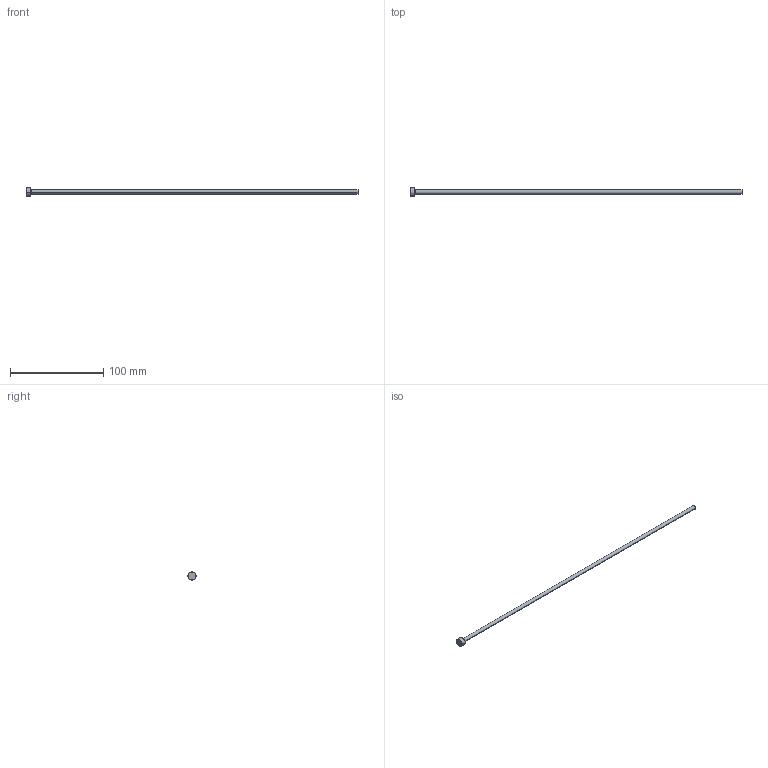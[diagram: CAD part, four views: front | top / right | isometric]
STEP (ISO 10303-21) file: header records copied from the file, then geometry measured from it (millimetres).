
FILE_DESCRIPTION (( 'STEP AP214' ), '1' );
FILE_NAME ('P12-14.STEP', '2020-03-11T18:13:47', ( '' ), ( '' ), 'SwSTEP 2.0', 'SolidWorks 2018', '' );
FILE_SCHEMA (( 'AUTOMOTIVE_DESIGN' ));
Length unit declared in the file: inch
Products named in the file (1): P12-14
Bounding box: 355.6 x 8.73 x 8.73 mm (x, y, z)
Volume: 5520 mm3; surface area: 5046.2 mm2
Topology: 1 solids, 1 shells, 13 faces, 24 edges, 14 vertices
Faces by surface type: cone 4, cylinder 4, plane 3, torus 2
Entity records: 366 total; most frequent: DIRECTION 68, CARTESIAN_POINT 52, ORIENTED_EDGE 48, AXIS2_PLACEMENT_3D 30, EDGE_CURVE 24, CIRCLE 16, EDGE_LOOP 14, VERTEX_POINT 14
